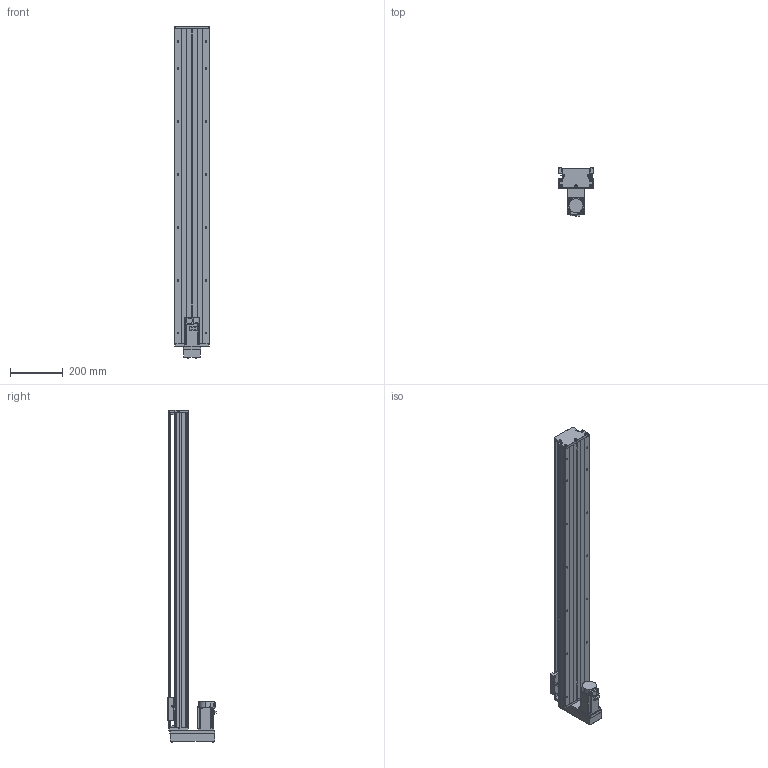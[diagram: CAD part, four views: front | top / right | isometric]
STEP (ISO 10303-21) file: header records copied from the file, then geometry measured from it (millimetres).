
FILE_DESCRIPTION (( 'STEP AP203' ), '1' );
FILE_NAME ('KTH130-1050-BM-M40-C4.step', '2023-06-30T04:03:19', ( '微软用户' ), ( '微软中国' ), 'SwSTEP 2.0', 'SolidWorks 2020', '' );
FILE_SCHEMA (( 'CONFIG_CONTROL_DESIGN' ));
Length unit declared in the file: millimetre
Products named in the file (19): す晦芛蹟隊 M3℅5; GBT 70.2-M3¡Á5_M3¡Á6; GBT 70.3-M3℅8; GTH14-001_1050; CTHA60-017; HG-KN43J-S100; KTH130-002_KTH130-002; EE_SX911P_R; GBT 70.2-M4¡Á35_M4¡Á35; KTH130-004; CTHA60-016; GTH14-015-2_CTHA86-015-2; KTH130-005; GBT 70.1-M3℅5; GTH14-033; GB1155-6X6; GBT77-2000 M3×3; KTH130-1050-BM-M40-C4; GBT70.1 M5℅16
Assembly tree (53 placements, depth 2):
  KTH130-1050-BM-M40-C4
    GTH14-001_1050
    KTH130-002_KTH130-002
    KTH130-004
    KTH130-005
    GB1155-6X6  x2
    GBT70.1 M5℅16  x10
    GBT 70.2-M3¡Á5_M3¡Á6  x4
    CTHA60-017  x3
    EE_SX911P_R  x3
    CTHA60-016  x2
    GBT 70.1-M3℅5  x6
    GBT77-2000 M3×3  x6
    す晦芛蹟隊 M3℅5  x2
    GBT 70.3-M3℅8  x4
    HG-KN43J-S100
    GBT 70.2-M4¡Á35_M4¡Á35  x4
    GTH14-015-2_CTHA86-015-2
    GTH14-033
Bounding box: 135 x 181.8 x 1254.2 mm (x, y, z)
Volume: 6943637.3 mm3; surface area: 1092490.1 mm2
Topology: 56 solids, 56 shells, 2243 faces, 5414 edges, 3374 vertices
Faces by surface type: plane 1201, cylinder 628, cone 290, torus 100, sphere 24
Entity records: 41174 total; most frequent: CARTESIAN_POINT 8734, DIRECTION 6159, ORIENTED_EDGE 6028, EDGE_CURVE 3014, AXIS2_PLACEMENT_3D 2130, VERTEX_POINT 1927, LINE 1899, VECTOR 1899
